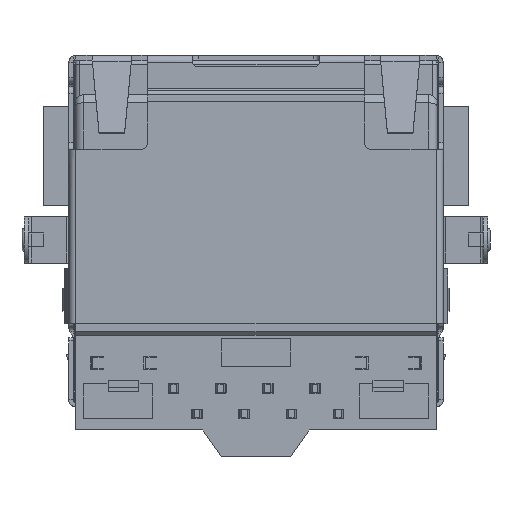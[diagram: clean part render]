
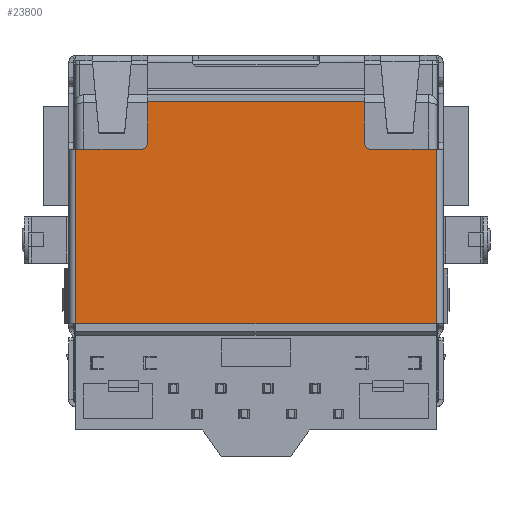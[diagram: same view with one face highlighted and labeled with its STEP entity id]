
A CAD part, front view. The second image highlights one B-rep face of the part: STEP entity #23800.
In plain terms, the highlighted planar face has unit normal (0, -1, 0).
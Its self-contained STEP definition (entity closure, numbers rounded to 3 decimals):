
#1231=DIRECTION('',(0.,0.,-1.));
#1232=VECTOR('',#1231,1.803);
#1233=CARTESIAN_POINT('',(4.7,-11.2,-4.75));
#1234=LINE('',#1233,#1232);
#1235=CARTESIAN_POINT('',(4.95,-11.2,-6.553));
#1236=DIRECTION('',(0.,-1.,0.));
#1237=DIRECTION('',(-1.,0.,0.));
#1238=AXIS2_PLACEMENT_3D('',#1235,#1236,#1237);
#1240=DIRECTION('',(1.,0.,0.));
#1241=VECTOR('',#1240,2.85);
#1242=CARTESIAN_POINT('',(4.95,-11.2,-6.803));
#1243=LINE('',#1242,#1241);
#1244=CARTESIAN_POINT('',(-4.95,-11.2,-6.553));
#1245=DIRECTION('',(0.,-1.,0.));
#1246=DIRECTION('',(0.,0.,-1.));
#1247=AXIS2_PLACEMENT_3D('',#1244,#1245,#1246);
#1249=DIRECTION('',(-1.,0.,0.));
#1250=VECTOR('',#1249,9.4);
#1251=CARTESIAN_POINT('',(4.7,-11.2,-4.75));
#1252=LINE('',#1251,#1250);
#1265=DIRECTION('',(0.,0.,-1.));
#1266=VECTOR('',#1265,1.803);
#1267=CARTESIAN_POINT('',(-4.7,-11.2,-4.75));
#1268=LINE('',#1267,#1266);
#1299=DIRECTION('',(-1.,0.,0.));
#1300=VECTOR('',#1299,2.85);
#1301=CARTESIAN_POINT('',(-4.95,-11.2,-6.803));
#1302=LINE('',#1301,#1300);
#1332=DIRECTION('',(0.,0.,-1.));
#1333=VECTOR('',#1332,7.55);
#1334=CARTESIAN_POINT('',(-7.8,-11.2,-6.803));
#1335=LINE('',#1334,#1333);
#11681=DIRECTION('',(0.,0.,1.));
#11682=VECTOR('',#11681,7.55);
#11683=CARTESIAN_POINT('',(7.8,-11.2,-14.353));
#11684=LINE('',#11683,#11682);
#11755=DIRECTION('',(1.,0.,0.));
#11756=VECTOR('',#11755,15.6);
#11757=CARTESIAN_POINT('',(-7.8,-11.2,-14.353));
#11758=LINE('',#11757,#11756);
#18289=CARTESIAN_POINT('',(7.8,-11.2,-6.803));
#18290=VERTEX_POINT('',#18289);
#18291=CARTESIAN_POINT('',(4.95,-11.2,-6.803));
#18292=VERTEX_POINT('',#18291);
#18297=CARTESIAN_POINT('',(4.7,-11.2,-4.75));
#18298=CARTESIAN_POINT('',(4.7,-11.2,-6.553));
#18299=VERTEX_POINT('',#18297);
#18300=VERTEX_POINT('',#18298);
#18303=CARTESIAN_POINT('',(-4.7,-11.2,-4.75));
#18304=VERTEX_POINT('',#18303);
#18305=CARTESIAN_POINT('',(-4.95,-11.2,-6.803));
#18306=CARTESIAN_POINT('',(-4.7,-11.2,-6.553));
#18307=VERTEX_POINT('',#18305);
#18308=VERTEX_POINT('',#18306);
#18323=CARTESIAN_POINT('',(-7.8,-11.2,-6.803));
#18324=VERTEX_POINT('',#18323);
#18336=CARTESIAN_POINT('',(-7.8,-11.2,-14.353));
#18337=VERTEX_POINT('',#18336);
#21660=CARTESIAN_POINT('',(7.8,-11.2,-14.353));
#21661=VERTEX_POINT('',#21660);
#23776=CARTESIAN_POINT('',(0.,-11.2,-9.551));
#23777=DIRECTION('',(0.,1.,0.));
#23778=DIRECTION('',(-1.,0.,0.));
#23779=AXIS2_PLACEMENT_3D('',#23776,#23777,#23778);
#23780=PLANE('',#23779);
#23782=ORIENTED_EDGE('',*,*,#23781,.F.);
#23783=ORIENTED_EDGE('',*,*,#23754,.T.);
#23784=ORIENTED_EDGE('',*,*,#23770,.T.);
#23785=ORIENTED_EDGE('',*,*,#23723,.T.);
#23787=ORIENTED_EDGE('',*,*,#23786,.F.);
#23789=ORIENTED_EDGE('',*,*,#23788,.F.);
#23791=ORIENTED_EDGE('',*,*,#23790,.F.);
#23793=ORIENTED_EDGE('',*,*,#23792,.F.);
#23795=ORIENTED_EDGE('',*,*,#23794,.T.);
#23797=ORIENTED_EDGE('',*,*,#23796,.F.);
#23798=EDGE_LOOP('',(#23782,#23783,#23784,#23785,#23787,#23789,#23791,#23793,
#23795,#23797));
#23799=FACE_OUTER_BOUND('',#23798,.F.);
#23800=ADVANCED_FACE('',(#23799),#23780,.F.);
#1239=CIRCLE('',#1238,0.25);
#1248=CIRCLE('',#1247,0.25);
#23723=EDGE_CURVE('',#18292,#18290,#1243,.T.);
#23754=EDGE_CURVE('',#18299,#18300,#1234,.T.);
#23770=EDGE_CURVE('',#18300,#18292,#1239,.T.);
#23781=EDGE_CURVE('',#18299,#18304,#1252,.T.);
#23786=EDGE_CURVE('',#21661,#18290,#11684,.T.);
#23788=EDGE_CURVE('',#18337,#21661,#11758,.T.);
#23790=EDGE_CURVE('',#18324,#18337,#1335,.T.);
#23792=EDGE_CURVE('',#18307,#18324,#1302,.T.);
#23794=EDGE_CURVE('',#18307,#18308,#1248,.T.);
#23796=EDGE_CURVE('',#18304,#18308,#1268,.T.);
